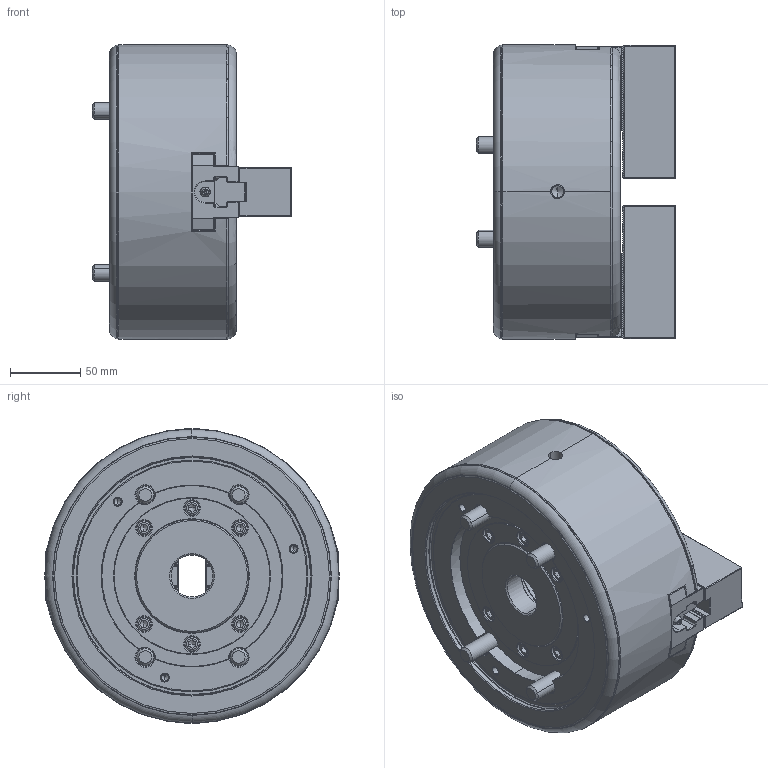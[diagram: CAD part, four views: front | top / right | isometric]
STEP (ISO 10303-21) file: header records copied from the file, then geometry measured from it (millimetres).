
FILE_DESCRIPTION (( 'STEP AP203' ), '1' );
FILE_NAME ('DEV-BRT08-HCL.STEP', '2024-03-07T09:52:03', ( '' ), ( '' ), 'SwSTEP 2.0', 'SolidWorks 2022', '' );
FILE_SCHEMA (( 'CONFIG_CONTROL_DESIGN' ));
Length unit declared in the file: millimetre
Products named in the file (9): Bアナツキ M12×30; 61P804199-0(BBT208) カバー_BBT208-ﾃﾞﾌｫﾙﾄ; DEV-BRT08-HCL; BRT08-Nishi20 ドローナット_ﾃﾞﾌｫﾙﾄ-Design; BRT08-61P314548-5 ソフトジョー_BBT208-ﾃﾞﾌｫﾙﾄ; BRT08-Nishi20 Tナット-Puls_61P417260-1 B-208 Tﾅｯﾄ-ﾃﾞﾌｫﾙﾄ; Bアナツキボタン M5×10_デフォルト; Part1^DEV-BRT08-クミタテ(量産)★; Bアナツキ M12×90
Assembly tree (19 placements, depth 2):
  DEV-BRT08-HCL
    BRT08-Nishi20 ドローナット_ﾃﾞﾌｫﾙﾄ-Design
    BRT08-61P314548-5 ソフトジョー_BBT208-ﾃﾞﾌｫﾙﾄ  x2
    BRT08-Nishi20 Tナット-Puls_61P417260-1 B-208 Tﾅｯﾄ-ﾃﾞﾌｫﾙﾄ  x2
    61P804199-0(BBT208) カバー_BBT208-ﾃﾞﾌｫﾙﾄ
    Bアナツキ M12×30  x4
    Bアナツキボタン M5×10_デフォルト  x4
    Bアナツキ M12×90  x4
    Part1^DEV-BRT08-クミタテ(量産)★
Bounding box: 142.2 x 210 x 210 mm (x, y, z)
Volume: 2882253.3 mm3; surface area: 314375.7 mm2
Topology: 19 solids, 23 shells, 3023 faces, 8258 edges, 5353 vertices
Faces by surface type: plane 2074, cylinder 412, cone 300, bspline 126, torus 103, sphere 8
Entity records: 80516 total; most frequent: CARTESIAN_POINT 20117, ORIENTED_EDGE 12846, DIRECTION 11454, EDGE_CURVE 6423, VECTOR 4710, LINE 4710, VERTEX_POINT 4194, AXIS2_PLACEMENT_3D 3372
